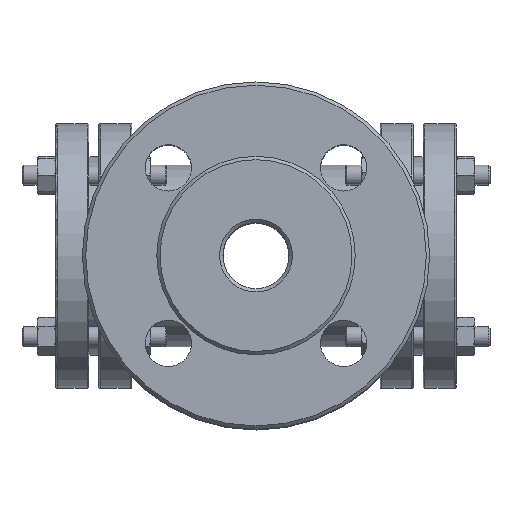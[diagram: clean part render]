
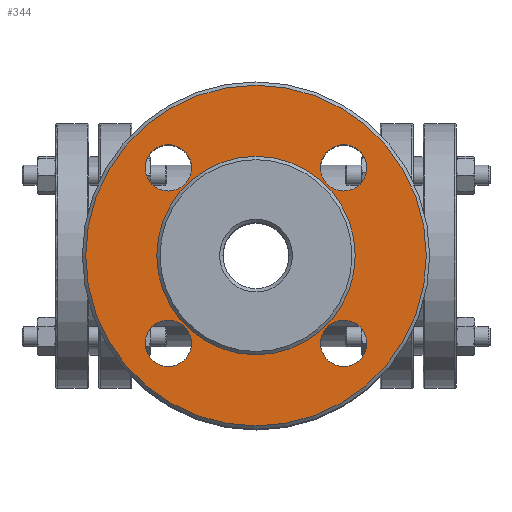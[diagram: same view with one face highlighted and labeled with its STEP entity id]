
A CAD part, top view. The second image highlights one B-rep face of the part: STEP entity #344.
In plain terms, the highlighted planar face has unit normal (0, 0, 1).
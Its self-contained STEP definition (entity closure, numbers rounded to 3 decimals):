
#344=ADVANCED_FACE('',(#2881,#2883,#2885,#2887,#2889,#2891),#2893,.T.);
#2881=FACE_BOUND('',#2882,.T.);
#2882=EDGE_LOOP('',(#8108));
#2883=FACE_BOUND('',#2884,.T.);
#2884=EDGE_LOOP('',(#8109));
#2885=FACE_BOUND('',#2886,.T.);
#2886=EDGE_LOOP('',(#8110));
#2887=FACE_BOUND('',#2888,.T.);
#2888=EDGE_LOOP('',(#8111));
#2889=FACE_BOUND('',#2890,.T.);
#2890=EDGE_LOOP('',(#8112));
#2891=FACE_BOUND('',#2892,.T.);
#2892=EDGE_LOOP('',(#8113));
#2893=PLANE('',#2894);
#2894=AXIS2_PLACEMENT_3D('',#2895,#2896,#2897);
#2895=CARTESIAN_POINT('',(0.,0.,74.));
#2896=DIRECTION('',(0.,0.,1.));
#2897=DIRECTION('',(1.,0.,0.));
#8108=ORIENTED_EDGE('',*,*,#10283,.F.);
#8109=ORIENTED_EDGE('',*,*,#10284,.T.);
#8110=ORIENTED_EDGE('',*,*,#10285,.T.);
#8111=ORIENTED_EDGE('',*,*,#10232,.F.);
#8112=ORIENTED_EDGE('',*,*,#10286,.F.);
#8113=ORIENTED_EDGE('',*,*,#10287,.F.);
#10232=EDGE_CURVE('',#11422,#11422,#11423,.T.);
#10283=EDGE_CURVE('',#11500,#11500,#11501,.T.);
#10284=EDGE_CURVE('',#11502,#11502,#11503,.T.);
#10285=EDGE_CURVE('',#11504,#11504,#11505,.T.);
#10286=EDGE_CURVE('',#11506,#11506,#11507,.T.);
#10287=EDGE_CURVE('',#11508,#11508,#11509,.T.);
#11422=VERTEX_POINT('',#14816);
#11423=CIRCLE('',#14817,30.);
#11500=VERTEX_POINT('',#16015);
#11501=CIRCLE('',#16016,51.5);
#11502=VERTEX_POINT('',#16020);
#11503=CIRCLE('',#16021,7.);
#11504=VERTEX_POINT('',#16025);
#11505=CIRCLE('',#16026,7.);
#11506=VERTEX_POINT('',#16030);
#11507=CIRCLE('',#16031,7.);
#11508=VERTEX_POINT('',#16035);
#11509=CIRCLE('',#16036,7.);
#14816=CARTESIAN_POINT('',(30.,0.,74.));
#14817=AXIS2_PLACEMENT_3D('',#14818,#14819,#14820);
#14818=CARTESIAN_POINT('',(0.,0.,74.));
#14819=DIRECTION('',(0.,0.,1.));
#14820=DIRECTION('',(1.,0.,0.));
#16015=CARTESIAN_POINT('',(51.5,0.,74.));
#16016=AXIS2_PLACEMENT_3D('',#16017,#16018,#16019);
#16017=CARTESIAN_POINT('',(0.,0.,74.));
#16018=DIRECTION('',(0.,0.,-1.));
#16019=DIRECTION('',(1.,0.,0.));
#16020=CARTESIAN_POINT('',(33.517,-26.517,74.));
#16021=AXIS2_PLACEMENT_3D('',#16022,#16023,#16024);
#16022=CARTESIAN_POINT('',(26.517,-26.517,74.));
#16023=DIRECTION('',(0.,0.,-1.));
#16024=DIRECTION('',(1.,0.,0.));
#16025=CARTESIAN_POINT('',(33.517,26.517,74.));
#16026=AXIS2_PLACEMENT_3D('',#16027,#16028,#16029);
#16027=CARTESIAN_POINT('',(26.517,26.517,74.));
#16028=DIRECTION('',(0.,0.,-1.));
#16029=DIRECTION('',(1.,0.,0.));
#16030=CARTESIAN_POINT('',(-33.517,-26.517,74.));
#16031=AXIS2_PLACEMENT_3D('',#16032,#16033,#16034);
#16032=CARTESIAN_POINT('',(-26.517,-26.517,74.));
#16033=DIRECTION('',(0.,0.,1.));
#16034=DIRECTION('',(-1.,0.,0.));
#16035=CARTESIAN_POINT('',(-33.517,26.517,74.));
#16036=AXIS2_PLACEMENT_3D('',#16037,#16038,#16039);
#16037=CARTESIAN_POINT('',(-26.517,26.517,74.));
#16038=DIRECTION('',(0.,0.,1.));
#16039=DIRECTION('',(-1.,0.,0.));
